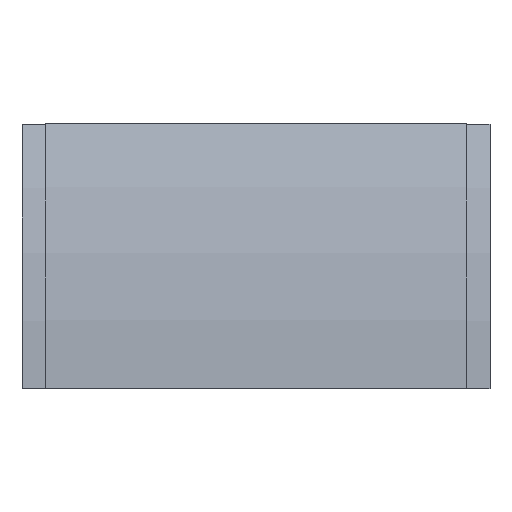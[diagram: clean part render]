
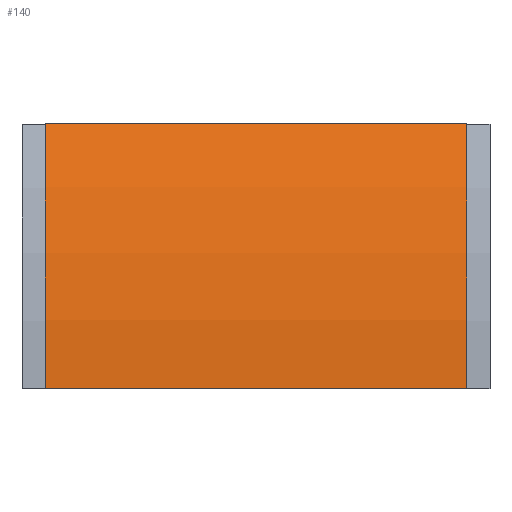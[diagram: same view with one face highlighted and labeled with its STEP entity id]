
A CAD part, front view. The second image highlights one B-rep face of the part: STEP entity #140.
In plain terms, the highlighted cylindrical face has radius 568 mm (diameter 1136 mm), a partial arc.
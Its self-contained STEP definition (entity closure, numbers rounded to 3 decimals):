
#31 = AXIS2_PLACEMENT_3D ( 'NONE', #996, #946, #990 ) ;
#54 = AXIS2_PLACEMENT_3D ( 'NONE', #660, #659, #658 ) ;
#55 = AXIS2_PLACEMENT_3D ( 'NONE', #668, #667, #666 ) ;
#84 = EDGE_CURVE ( 'NONE', #691, #698, #753, .T. ) ;
#87 = EDGE_CURVE ( 'NONE', #689, #696, #758, .T. ) ;
#89 = EDGE_CURVE ( 'NONE', #691, #689, #760, .T. ) ;
#90 = EDGE_CURVE ( 'NONE', #698, #696, #763, .T. ) ;
#140 = ADVANCED_FACE ( 'NONE', ( #325 ), #330, .T. ) ;
#261 = ORIENTED_EDGE ( 'NONE', *, *, #87, .F. ) ;
#262 = ORIENTED_EDGE ( 'NONE', *, *, #89, .F. ) ;
#263 = ORIENTED_EDGE ( 'NONE', *, *, #84, .T. ) ;
#264 = ORIENTED_EDGE ( 'NONE', *, *, #90, .T. ) ;
#311 = EDGE_LOOP ( 'NONE', ( #261, #262, #263, #264 ) ) ;
#325 = FACE_OUTER_BOUND ( 'NONE', #311, .T. ) ;
#330 = CYLINDRICAL_SURFACE ( 'NONE', #31, 568. ) ;
#649 = DIRECTION ( 'NONE',  ( 1., 0., 0. ) ) ;
#653 = CARTESIAN_POINT ( 'NONE',  ( -190.5, -68., 0. ) ) ;
#655 = DIRECTION ( 'NONE',  ( 1., 0., 0. ) ) ;
#658 = DIRECTION ( 'NONE',  ( 0., 0., -1. ) ) ;
#659 = DIRECTION ( 'NONE',  ( 1., 0., 0. ) ) ;
#660 = CARTESIAN_POINT ( 'NONE',  ( 190.5, 500., 0. ) ) ;
#662 = CARTESIAN_POINT ( 'NONE',  ( -190.5, -14.783, 240.047 ) ) ;
#666 = DIRECTION ( 'NONE',  ( 0., 0., -1. ) ) ;
#667 = DIRECTION ( 'NONE',  ( 1., 0., 0. ) ) ;
#668 = CARTESIAN_POINT ( 'NONE',  ( -190.5, 500., 0. ) ) ;
#689 = VERTEX_POINT ( 'NONE', #842 ) ;
#691 = VERTEX_POINT ( 'NONE', #877 ) ;
#696 = VERTEX_POINT ( 'NONE', #836 ) ;
#698 = VERTEX_POINT ( 'NONE', #833 ) ;
#753 = CIRCLE ( 'NONE', #55, 568. ) ;
#758 = CIRCLE ( 'NONE', #54, 568. ) ;
#760 = LINE ( 'NONE', #662, #764 ) ;
#763 = LINE ( 'NONE', #653, #766 ) ;
#764 = VECTOR ( 'NONE', #655, 1000. ) ;
#766 = VECTOR ( 'NONE', #649, 1000. ) ;
#833 = CARTESIAN_POINT ( 'NONE',  ( -190.5, -68., 0. ) ) ;
#836 = CARTESIAN_POINT ( 'NONE',  ( 190.5, -68., 0. ) ) ;
#842 = CARTESIAN_POINT ( 'NONE',  ( 190.5, -14.783, 240.047 ) ) ;
#877 = CARTESIAN_POINT ( 'NONE',  ( -190.5, -14.783, 240.047 ) ) ;
#946 = DIRECTION ( 'NONE',  ( 1., 0., 0. ) ) ;
#990 = DIRECTION ( 'NONE',  ( 0., 0., -1. ) ) ;
#996 = CARTESIAN_POINT ( 'NONE',  ( 0., 500., 0. ) ) ;
